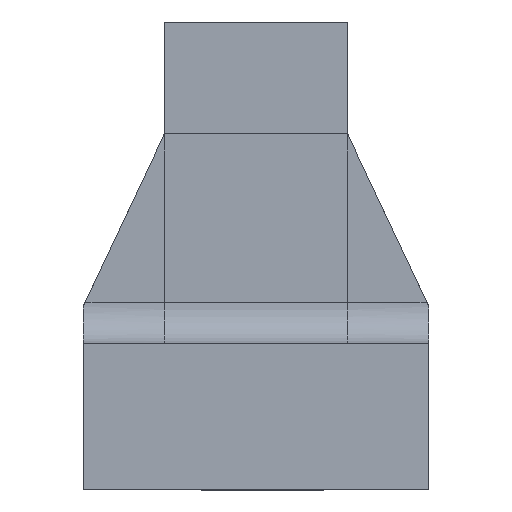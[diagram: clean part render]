
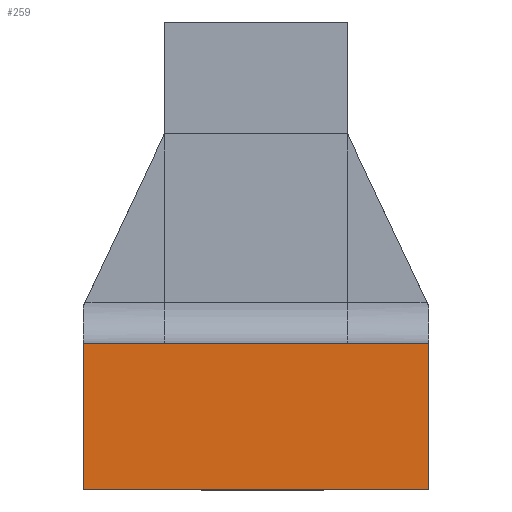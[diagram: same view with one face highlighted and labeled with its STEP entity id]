
A CAD part, left-side view. The second image highlights one B-rep face of the part: STEP entity #259.
In plain terms, the highlighted planar face has unit normal (-1, 0, 0).
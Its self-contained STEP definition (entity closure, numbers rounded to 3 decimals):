
#31 = VERTEX_POINT ( 'NONE', #459 ) ;
#216 = VERTEX_POINT ( 'NONE', #731 ) ;
#218 = EDGE_CURVE ( 'NONE', #216, #31, #730, .T. ) ;
#259 = ADVANCED_FACE ( 'NONE', ( #847 ), #846, .F. ) ;
#260 = EDGE_LOOP ( 'NONE', ( #261, #264, #265, #268 ) ) ;
#261 = ORIENTED_EDGE ( 'NONE', *, *, #262, .F. ) ;
#262 = EDGE_CURVE ( 'NONE', #31, #263, #841, .T. ) ;
#263 = VERTEX_POINT ( 'NONE', #837 ) ;
#264 = ORIENTED_EDGE ( 'NONE', *, *, #218, .F. ) ;
#265 = ORIENTED_EDGE ( 'NONE', *, *, #266, .F. ) ;
#266 = EDGE_CURVE ( 'NONE', #267, #216, #836, .T. ) ;
#267 = VERTEX_POINT ( 'NONE', #832 ) ;
#268 = ORIENTED_EDGE ( 'NONE', *, *, #298, .T. ) ;
#298 = EDGE_CURVE ( 'NONE', #267, #263, #862, .T. ) ;
#459 = CARTESIAN_POINT ( 'NONE',  ( 0., -8.5, 7.2 ) ) ;
#727 = DIRECTION ( 'NONE',  ( 0., -1., 0. ) ) ;
#728 = VECTOR ( 'NONE', #727, 1000. ) ;
#729 = CARTESIAN_POINT ( 'NONE',  ( 0., 11.852, 7.2 ) ) ;
#730 = LINE ( 'NONE', #729, #728 ) ;
#731 = CARTESIAN_POINT ( 'NONE',  ( 0., 8.5, 7.2 ) ) ;
#832 = CARTESIAN_POINT ( 'NONE',  ( 0., 8.5, 0. ) ) ;
#833 = DIRECTION ( 'NONE',  ( 0., 0., 1. ) ) ;
#834 = VECTOR ( 'NONE', #833, 1000. ) ;
#835 = CARTESIAN_POINT ( 'NONE',  ( 0., 8.5, 5.7 ) ) ;
#836 = LINE ( 'NONE', #835, #834 ) ;
#837 = CARTESIAN_POINT ( 'NONE',  ( 0., -8.5, 0. ) ) ;
#838 = DIRECTION ( 'NONE',  ( 0., 0., -1. ) ) ;
#839 = VECTOR ( 'NONE', #838, 1000. ) ;
#840 = CARTESIAN_POINT ( 'NONE',  ( 0., -8.5, 5.7 ) ) ;
#841 = LINE ( 'NONE', #840, #839 ) ;
#842 = DIRECTION ( 'NONE',  ( 0., 0., -1. ) ) ;
#843 = DIRECTION ( 'NONE',  ( 1., 0., 0. ) ) ;
#844 = CARTESIAN_POINT ( 'NONE',  ( 0., 4.5, 0. ) ) ;
#845 = AXIS2_PLACEMENT_3D ( 'NONE', #844, #843, #842 ) ;
#846 = PLANE ( 'NONE',  #845 ) ;
#847 = FACE_OUTER_BOUND ( 'NONE', #260, .T. ) ;
#859 = DIRECTION ( 'NONE',  ( 0., -1., 0. ) ) ;
#860 = VECTOR ( 'NONE', #859, 1000. ) ;
#861 = CARTESIAN_POINT ( 'NONE',  ( 0., 4.5, 0. ) ) ;
#862 = LINE ( 'NONE', #861, #860 ) ;
